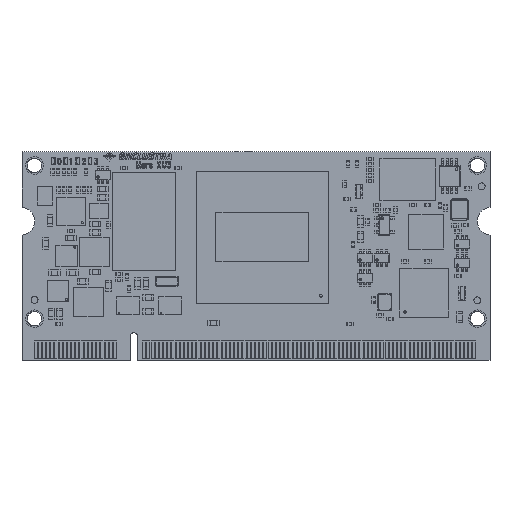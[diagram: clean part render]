
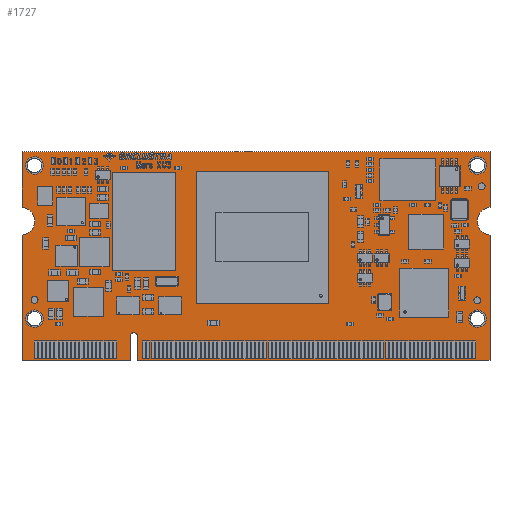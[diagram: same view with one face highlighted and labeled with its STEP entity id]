
A CAD part, top view. The second image highlights one B-rep face of the part: STEP entity #1727.
In plain terms, the highlighted planar face has unit normal (0, 0, 1).
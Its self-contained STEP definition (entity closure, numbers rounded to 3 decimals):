
#1192 = VERTEX_POINT('',#1193);
#1193 = CARTESIAN_POINT('',(0.,0.,1.));
#1199 = EDGE_CURVE('',#1192,#1200,#1202,.T.);
#1200 = VERTEX_POINT('',#1201);
#1201 = CARTESIAN_POINT('',(15.55,0.,1.));
#1202 = LINE('',#1203,#1204);
#1203 = CARTESIAN_POINT('',(0.,0.,1.));
#1204 = VECTOR('',#1205,1.);
#1205 = DIRECTION('',(1.,0.,0.));
#1230 = EDGE_CURVE('',#1200,#1231,#1233,.T.);
#1231 = VERTEX_POINT('',#1232);
#1232 = CARTESIAN_POINT('',(15.55,3.5,1.));
#1233 = LINE('',#1234,#1235);
#1234 = CARTESIAN_POINT('',(15.55,0.,1.));
#1235 = VECTOR('',#1236,1.);
#1236 = DIRECTION('',(0.,1.,0.));
#1261 = EDGE_CURVE('',#1231,#1262,#1264,.T.);
#1262 = VERTEX_POINT('',#1263);
#1263 = CARTESIAN_POINT('',(16.55,3.5,1.));
#1264 = CIRCLE('',#1265,0.5);
#1265 = AXIS2_PLACEMENT_3D('',#1266,#1267,#1268);
#1266 = CARTESIAN_POINT('',(16.05,3.5,1.));
#1267 = DIRECTION('',(0.,0.,-1.));
#1268 = DIRECTION('',(-1.,0.,0.));
#1294 = EDGE_CURVE('',#1262,#1295,#1297,.T.);
#1295 = VERTEX_POINT('',#1296);
#1296 = CARTESIAN_POINT('',(16.55,0.,1.));
#1297 = LINE('',#1298,#1299);
#1298 = CARTESIAN_POINT('',(16.55,3.5,1.));
#1299 = VECTOR('',#1300,1.);
#1300 = DIRECTION('',(0.,-1.,0.));
#1325 = EDGE_CURVE('',#1295,#1326,#1328,.T.);
#1326 = VERTEX_POINT('',#1327);
#1327 = CARTESIAN_POINT('',(67.2,0.,1.));
#1328 = LINE('',#1329,#1330);
#1329 = CARTESIAN_POINT('',(16.55,0.,1.));
#1330 = VECTOR('',#1331,1.);
#1331 = DIRECTION('',(1.,0.,0.));
#1356 = EDGE_CURVE('',#1326,#1357,#1359,.T.);
#1357 = VERTEX_POINT('',#1358);
#1358 = CARTESIAN_POINT('',(67.2,18.,1.));
#1359 = LINE('',#1360,#1361);
#1360 = CARTESIAN_POINT('',(67.2,0.,1.));
#1361 = VECTOR('',#1362,1.);
#1362 = DIRECTION('',(0.,1.,0.));
#1387 = EDGE_CURVE('',#1357,#1388,#1390,.T.);
#1388 = VERTEX_POINT('',#1389);
#1389 = CARTESIAN_POINT('',(67.2,22.,1.));
#1390 = CIRCLE('',#1391,2.01);
#1391 = AXIS2_PLACEMENT_3D('',#1392,#1393,#1394);
#1392 = CARTESIAN_POINT('',(67.4,20.,1.));
#1393 = DIRECTION('',(0.,0.,-1.));
#1394 = DIRECTION('',(-0.099,-0.995,0.));
#1420 = EDGE_CURVE('',#1388,#1421,#1423,.T.);
#1421 = VERTEX_POINT('',#1422);
#1422 = CARTESIAN_POINT('',(67.2,30.,1.));
#1423 = LINE('',#1424,#1425);
#1424 = CARTESIAN_POINT('',(67.2,22.,1.));
#1425 = VECTOR('',#1426,1.);
#1426 = DIRECTION('',(0.,1.,0.));
#1451 = EDGE_CURVE('',#1421,#1452,#1454,.T.);
#1452 = VERTEX_POINT('',#1453);
#1453 = CARTESIAN_POINT('',(0.,30.,1.));
#1454 = LINE('',#1455,#1456);
#1455 = CARTESIAN_POINT('',(67.2,30.,1.));
#1456 = VECTOR('',#1457,1.);
#1457 = DIRECTION('',(-1.,0.,0.));
#1482 = EDGE_CURVE('',#1452,#1483,#1485,.T.);
#1483 = VERTEX_POINT('',#1484);
#1484 = CARTESIAN_POINT('',(0.,22.,1.));
#1485 = LINE('',#1486,#1487);
#1486 = CARTESIAN_POINT('',(0.,30.,1.));
#1487 = VECTOR('',#1488,1.);
#1488 = DIRECTION('',(0.,-1.,0.));
#1513 = EDGE_CURVE('',#1483,#1514,#1516,.T.);
#1514 = VERTEX_POINT('',#1515);
#1515 = CARTESIAN_POINT('',(0.,18.,1.));
#1516 = CIRCLE('',#1517,2.01);
#1517 = AXIS2_PLACEMENT_3D('',#1518,#1519,#1520);
#1518 = CARTESIAN_POINT('',(-0.2,20.,1.));
#1519 = DIRECTION('',(0.,0.,-1.));
#1520 = DIRECTION('',(0.099,0.995,0.));
#1546 = EDGE_CURVE('',#1514,#1192,#1547,.T.);
#1547 = LINE('',#1548,#1549);
#1548 = CARTESIAN_POINT('',(0.,18.,1.));
#1549 = VECTOR('',#1550,1.);
#1550 = DIRECTION('',(0.,-1.,0.));
#1570 = VERTEX_POINT('',#1571);
#1571 = CARTESIAN_POINT('',(2.85,6.,1.));
#1577 = EDGE_CURVE('',#1570,#1570,#1578,.T.);
#1578 = CIRCLE('',#1579,1.05);
#1579 = AXIS2_PLACEMENT_3D('',#1580,#1581,#1582);
#1580 = CARTESIAN_POINT('',(1.8,6.,1.));
#1581 = DIRECTION('',(0.,0.,1.));
#1582 = DIRECTION('',(1.,0.,0.));
#1603 = VERTEX_POINT('',#1604);
#1604 = CARTESIAN_POINT('',(2.85,28.,1.));
#1610 = EDGE_CURVE('',#1603,#1603,#1611,.T.);
#1611 = CIRCLE('',#1612,1.05);
#1612 = AXIS2_PLACEMENT_3D('',#1613,#1614,#1615);
#1613 = CARTESIAN_POINT('',(1.8,28.,1.));
#1614 = DIRECTION('',(0.,0.,1.));
#1615 = DIRECTION('',(1.,0.,0.));
#1636 = VERTEX_POINT('',#1637);
#1637 = CARTESIAN_POINT('',(66.45,6.,1.));
#1643 = EDGE_CURVE('',#1636,#1636,#1644,.T.);
#1644 = CIRCLE('',#1645,1.05);
#1645 = AXIS2_PLACEMENT_3D('',#1646,#1647,#1648);
#1646 = CARTESIAN_POINT('',(65.4,6.,1.));
#1647 = DIRECTION('',(0.,0.,1.));
#1648 = DIRECTION('',(1.,0.,0.));
#1669 = VERTEX_POINT('',#1670);
#1670 = CARTESIAN_POINT('',(66.45,28.,1.));
#1676 = EDGE_CURVE('',#1669,#1669,#1677,.T.);
#1677 = CIRCLE('',#1678,1.05);
#1678 = AXIS2_PLACEMENT_3D('',#1679,#1680,#1681);
#1679 = CARTESIAN_POINT('',(65.4,28.,1.));
#1680 = DIRECTION('',(0.,0.,1.));
#1681 = DIRECTION('',(1.,0.,0.));
#1727 = ADVANCED_FACE('',(#1728,#1742,#1745,#1748,#1751),#1754,.F.);
#1728 = FACE_BOUND('',#1729,.T.);
#1729 = EDGE_LOOP('',(#1730,#1731,#1732,#1733,#1734,#1735,#1736,#1737,
    #1738,#1739,#1740,#1741));
#1730 = ORIENTED_EDGE('',*,*,#1199,.T.);
#1731 = ORIENTED_EDGE('',*,*,#1230,.T.);
#1732 = ORIENTED_EDGE('',*,*,#1261,.T.);
#1733 = ORIENTED_EDGE('',*,*,#1294,.T.);
#1734 = ORIENTED_EDGE('',*,*,#1325,.T.);
#1735 = ORIENTED_EDGE('',*,*,#1356,.T.);
#1736 = ORIENTED_EDGE('',*,*,#1387,.T.);
#1737 = ORIENTED_EDGE('',*,*,#1420,.T.);
#1738 = ORIENTED_EDGE('',*,*,#1451,.T.);
#1739 = ORIENTED_EDGE('',*,*,#1482,.T.);
#1740 = ORIENTED_EDGE('',*,*,#1513,.T.);
#1741 = ORIENTED_EDGE('',*,*,#1546,.T.);
#1742 = FACE_BOUND('',#1743,.F.);
#1743 = EDGE_LOOP('',(#1744));
#1744 = ORIENTED_EDGE('',*,*,#1577,.T.);
#1745 = FACE_BOUND('',#1746,.F.);
#1746 = EDGE_LOOP('',(#1747));
#1747 = ORIENTED_EDGE('',*,*,#1610,.T.);
#1748 = FACE_BOUND('',#1749,.F.);
#1749 = EDGE_LOOP('',(#1750));
#1750 = ORIENTED_EDGE('',*,*,#1643,.T.);
#1751 = FACE_BOUND('',#1752,.F.);
#1752 = EDGE_LOOP('',(#1753));
#1753 = ORIENTED_EDGE('',*,*,#1676,.T.);
#1754 = PLANE('',#1755);
#1755 = AXIS2_PLACEMENT_3D('',#1756,#1757,#1758);
#1756 = CARTESIAN_POINT('',(0.,0.,1.));
#1757 = DIRECTION('',(0.,0.,-1.));
#1758 = DIRECTION('',(-1.,0.,0.));
